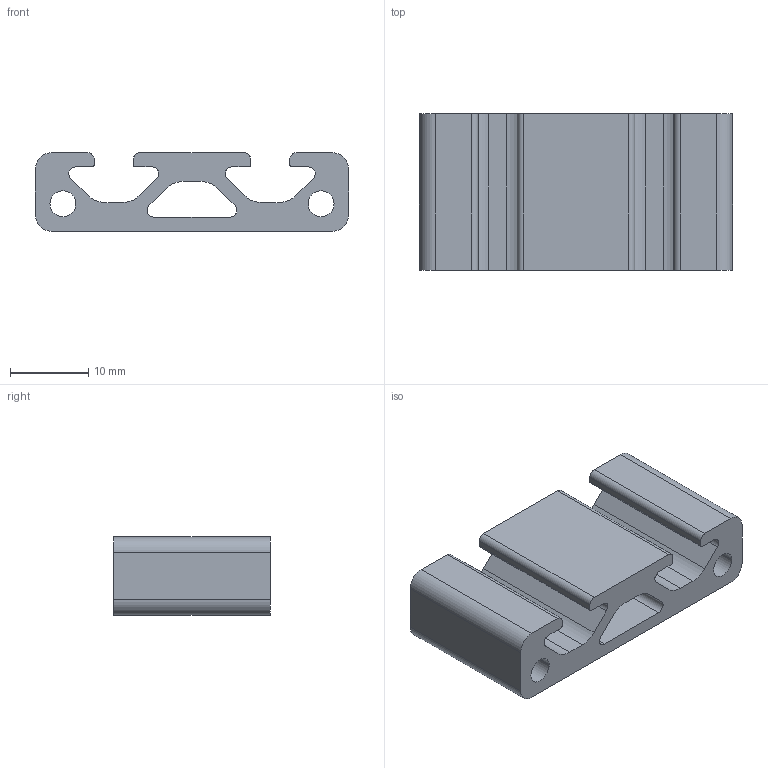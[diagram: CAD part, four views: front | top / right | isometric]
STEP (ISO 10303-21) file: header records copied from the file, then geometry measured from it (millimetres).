
FILE_DESCRIPTION(('STEP AP214'),'1');
FILE_NAME('cctmp_6488035D-F2FE-4584-8DD4-E50778FC60DC_2023_04_25_09_24_29_0011_12232..stp','2023-04-25T07:24:29',('item Industrietechnik GmbH'),('CADClick - www.CADClick.com'),'Spatial InterOp 3D',' ','unknown authorization');
FILE_SCHEMA(('AUTOMOTIVE_DESIGN'));
Length unit declared in the file: millimetre
Products named in the file (2): item_0039106_Profile 5 40x10_L=20; item_0039106_Profile 5 40x10_L=20_1
Assembly tree (1 placements, depth 2):
  item_0039106_Profile 5 40x10_L=20
    item_0039106_Profile 5 40x10_L=20_1
Bounding box: 40 x 20 x 10 mm (x, y, z)
Volume: 4802.6 mm3; surface area: 4158.8 mm2
Topology: 1 solids, 1 shells, 55 faces, 159 edges, 106 vertices
Faces by surface type: cylinder 29, plane 26
Entity records: 2334 total; most frequent: DIRECTION 331, CARTESIAN_POINT 322, ORIENTED_EDGE 318, EDGE_CURVE 159, AXIS2_PLACEMENT_3D 115, VERTEX_POINT 106, LINE 101, VECTOR 101
